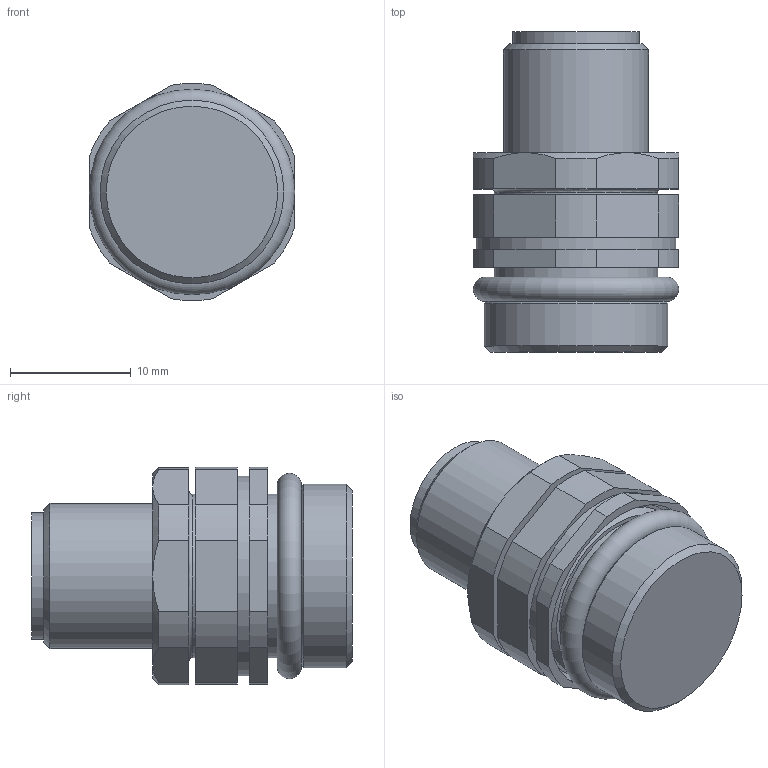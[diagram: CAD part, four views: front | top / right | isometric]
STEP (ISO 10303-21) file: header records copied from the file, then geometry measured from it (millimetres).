
FILE_DESCRIPTION((''),'2;1');
FILE_NAME('C:\TurckZip\FSD-FSDW-0.stp','2010-03-16T14:02:16',('IKOROL'),(''),'Autodesk Inventor 2009','Autodesk Inventor 2009','');
FILE_SCHEMA(('CONFIG_CONTROL_DESIGN'));
Length unit declared in the file: millimetre
Products named in the file (1): Part5
Bounding box: 17 x 26.5 x 17.96 mm (x, y, z)
Volume: 3878.9 mm3; surface area: 3310.9 mm2
Topology: 1 solids, 4 shells, 90 faces, 205 edges, 133 vertices
Faces by surface type: plane 39, cylinder 32, cone 14, bspline 3, torus 2
Full cylindrical faces by diameter (mm): 8.3 x1, 9.9 x2, 10 x1, 10.5 x1, 11.8 x1, 12 x1, 13.5 x3, 15.2 x2, 16.5 x1
Entity records: 2609 total; most frequent: CARTESIAN_POINT 576, DIRECTION 419, ORIENTED_EDGE 346, AXIS2_PLACEMENT_3D 173, EDGE_CURVE 173, EDGE_LOOP 131, VERTEX_POINT 126, FACE_OUTER_BOUND 90
